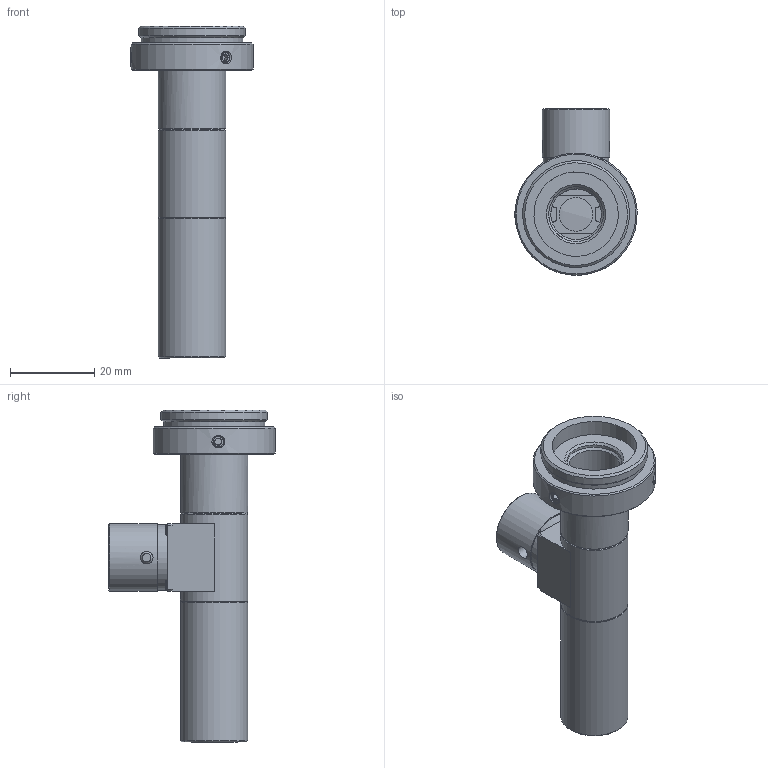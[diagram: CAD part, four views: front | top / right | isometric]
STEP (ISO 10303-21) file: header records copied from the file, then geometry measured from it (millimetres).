
FILE_DESCRIPTION(('STEP AP214'),'1');
FILE_NAME('RTK-1.5F-110.stp','2026-03-17T01:49:40',(' '),(' '),'Spatial InterOp 3D',' ',' ');
FILE_SCHEMA(('AUTOMOTIVE_DESIGN { 1 0 10303 214 1 1 1 1 }'));
Length unit declared in the file: metre
Products named in the file (2): RTK-1.5F-110; Component1
Assembly tree (1 placements, depth 2):
  RTK-1.5F-110
    Component1
Bounding box: 28.97 x 39.47 x 78.7 mm (x, y, z)
Volume: 12414.3 mm3; surface area: 11845.4 mm2
Topology: 1 solids, 13 shells, 386 faces, 924 edges, 595 vertices
Faces by surface type: plane 180, cone 113, cylinder 76, torus 8, sphere 6, bspline 3
Full cylindrical faces by diameter (mm): 1.7 x8, 1.8 x4, 2.5 x6, 3 x3, 6.5 x1, 8 x2, 9 x1, 10 x1, 12 x3, 12.7 x1, 13 x2, 13.4 x1, 13.5 x2, 13.7 x1, 13.9 x1, 14 x2, 14.2 x3, 14.7 x1, 15.5 x1, 16 x6, 20 x1, 24.12 x1, 25.32 x1, 29 x1
Entity records: 17700 total; most frequent: CARTESIAN_POINT 2611, DIRECTION 1788, ORIENTED_EDGE 1486, STYLED_ITEM 1129, PRESENTATION_STYLE_ASSIGNMENT 1129, COLOUR_RGB 1129, AXIS2_PLACEMENT_3D 755, EDGE_CURVE 743
